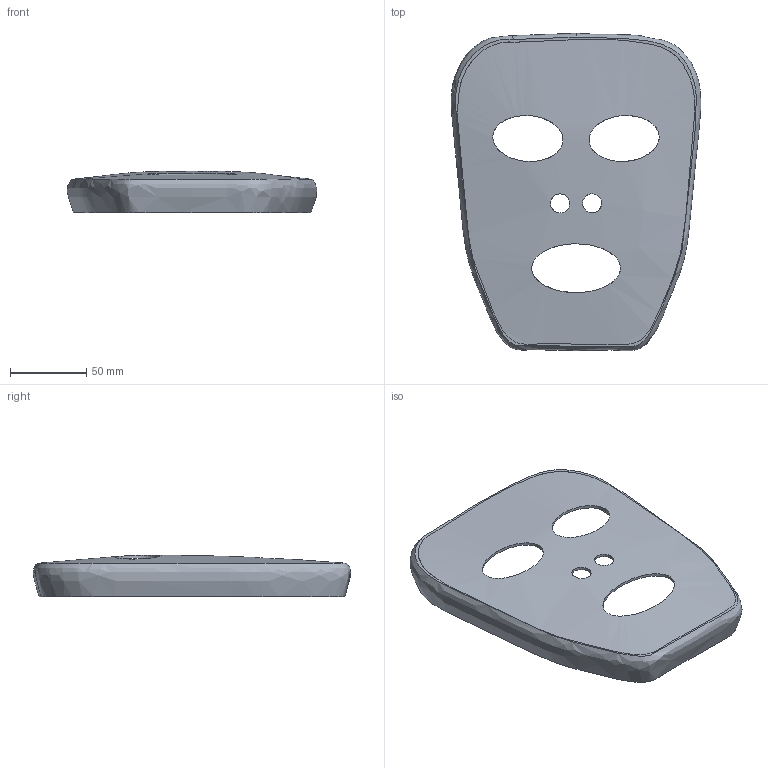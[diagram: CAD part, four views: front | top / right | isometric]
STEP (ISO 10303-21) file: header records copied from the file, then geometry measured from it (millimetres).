
FILE_DESCRIPTION(('Open CASCADE Model'),'2;1');
FILE_NAME('Open CASCADE Shape Model','2026-09-13T17:41:45',('Author'),( 'Open CASCADE'),'Open CASCADE STEP processor 7.8','Open CASCADE 7.8' ,'Unknown');
FILE_SCHEMA(('AUTOMOTIVE_DESIGN { 1 0 10303 214 1 1 1 1 }'));
Length unit declared in the file: millimetre
Products named in the file (1): Open CASCADE STEP translator 7.8 1
Bounding box: 163.47 x 207.92 x 27.16 mm (x, y, z)
Volume: 62699 mm3; surface area: 77616.6 mm2
Topology: 1 solids, 1 shells, 16 faces, 36 edges, 24 vertices
Faces by surface type: bspline 8, extrusion 3, plane 2, cylinder 2, offset 1
Full cylindrical faces by diameter (mm): 12.484 x2
Entity records: 20869 total; most frequent: CARTESIAN_POINT 20263, ORIENTED_EDGE 72, B_SPLINE_CURVE_WITH_KNOTS 72, PCURVE 72, DEFINITIONAL_REPRESENTATION 72, DIRECTION 50, EDGE_CURVE 36, VECTOR 34
